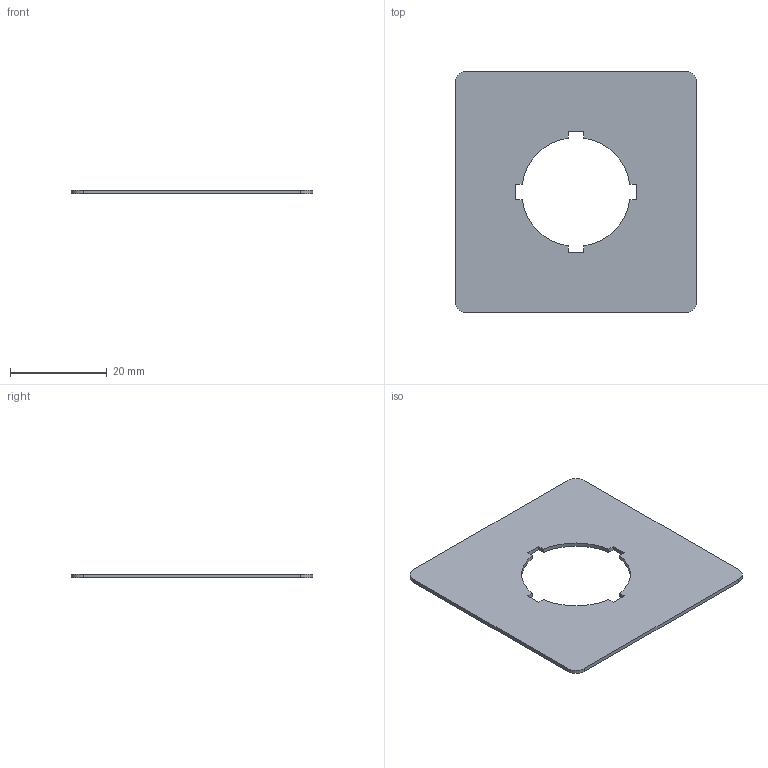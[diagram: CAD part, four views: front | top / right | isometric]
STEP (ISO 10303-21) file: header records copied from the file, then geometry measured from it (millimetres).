
FILE_DESCRIPTION( ( '' ), '1' );
FILE_NAME( '//expscmdclustefs.cadenas.external/client_exchange/iodir/jobs/output/wkb45967166_no0/STEP/216484_2_03.stp', '2012-06-14T13:19:39', ( '' ), ( '' ), ' ', ' ', ' ' );
FILE_SCHEMA( ( 'CONFIG_CONTROL_DESIGN' ) );
Length unit declared in the file: millimetre
Products named in the file (1): 1
Bounding box: 50 x 50 x 0.8 mm (x, y, z)
Volume: 1664.4 mm3; surface area: 4382.9 mm2
Topology: 1 solids, 1 shells, 26 faces, 72 edges, 48 vertices
Faces by surface type: plane 18, cylinder 8
Entity records: 880 total; most frequent: CARTESIAN_POINT 147, ORIENTED_EDGE 144, DIRECTION 142, EDGE_CURVE 72, LINE 56, VECTOR 56, VERTEX_POINT 48, AXIS2_PLACEMENT_3D 43
